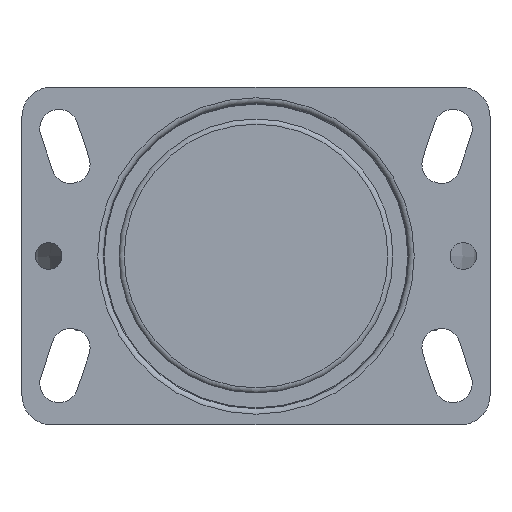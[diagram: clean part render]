
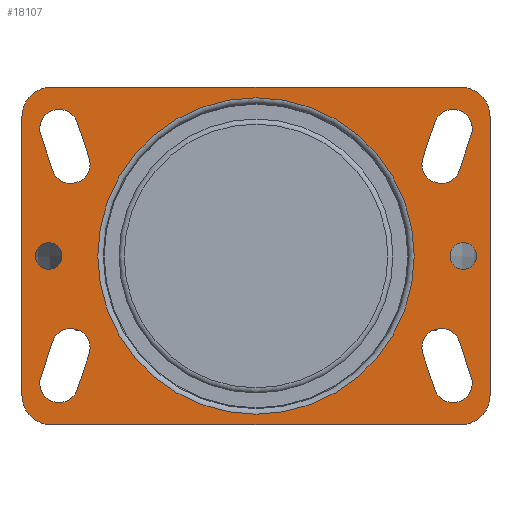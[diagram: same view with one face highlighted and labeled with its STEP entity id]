
A CAD part, top view. The second image highlights one B-rep face of the part: STEP entity #18107.
In plain terms, the highlighted planar face has unit normal (0, 0, 1).
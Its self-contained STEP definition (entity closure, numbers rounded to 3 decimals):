
#1108=FACE_BOUND('',#2696,.T.);
#1109=FACE_BOUND('',#2697,.T.);
#1110=FACE_BOUND('',#2698,.T.);
#1111=FACE_BOUND('',#2699,.T.);
#1112=FACE_BOUND('',#2700,.T.);
#1113=FACE_BOUND('',#2701,.T.);
#1114=FACE_BOUND('',#2702,.T.);
#1496=FACE_OUTER_BOUND('',#2695,.T.);
#2695=EDGE_LOOP('',(#13688,#13689,#13690,#13691,#13692,#13693,#13694,#13695));
#2696=EDGE_LOOP('',(#13696));
#2697=EDGE_LOOP('',(#13697));
#2698=EDGE_LOOP('',(#13698,#13699,#13700,#13701));
#2699=EDGE_LOOP('',(#13702,#13703,#13704,#13705));
#2700=EDGE_LOOP('',(#13706,#13707,#13708,#13709));
#2701=EDGE_LOOP('',(#13710,#13711,#13712,#13713));
#2702=EDGE_LOOP('',(#13714));
#4108=LINE('',#28805,#5033);
#4111=LINE('',#28811,#5036);
#4112=LINE('',#28815,#5037);
#4113=LINE('',#28819,#5038);
#4114=LINE('',#28827,#5039);
#4115=LINE('',#28831,#5040);
#4116=LINE('',#28835,#5041);
#4117=LINE('',#28839,#5042);
#4118=LINE('',#28843,#5043);
#4119=LINE('',#28847,#5044);
#4120=LINE('',#28851,#5045);
#4121=LINE('',#28855,#5046);
#5033=VECTOR('',#21462,10.);
#5036=VECTOR('',#21467,10.);
#5037=VECTOR('',#21470,10.);
#5038=VECTOR('',#21473,10.);
#5039=VECTOR('',#21480,10.);
#5040=VECTOR('',#21483,10.);
#5041=VECTOR('',#21486,10.);
#5042=VECTOR('',#21489,10.);
#5043=VECTOR('',#21492,10.);
#5044=VECTOR('',#21495,10.);
#5045=VECTOR('',#21498,10.);
#5046=VECTOR('',#21501,10.);
#5432=CIRCLE('',#19169,10.);
#5433=CIRCLE('',#19172,10.);
#5434=CIRCLE('',#19173,10.);
#5435=CIRCLE('',#19174,10.);
#5436=CIRCLE('',#19175,4.5);
#5437=CIRCLE('',#19176,4.5);
#5438=CIRCLE('',#19177,6.5);
#5439=CIRCLE('',#19178,6.5);
#5440=CIRCLE('',#19179,6.5);
#5441=CIRCLE('',#19180,6.5);
#5442=CIRCLE('',#19181,6.5);
#5443=CIRCLE('',#19182,6.5);
#5444=CIRCLE('',#19183,6.5);
#5445=CIRCLE('',#19184,6.5);
#5446=CIRCLE('',#19185,53.415);
#7783=VERTEX_POINT('',#28798);
#7784=VERTEX_POINT('',#28800);
#7785=VERTEX_POINT('',#28804);
#7787=VERTEX_POINT('',#28810);
#7788=VERTEX_POINT('',#28812);
#7789=VERTEX_POINT('',#28814);
#7790=VERTEX_POINT('',#28816);
#7791=VERTEX_POINT('',#28818);
#7792=VERTEX_POINT('',#28821);
#7793=VERTEX_POINT('',#28823);
#7794=VERTEX_POINT('',#28825);
#7795=VERTEX_POINT('',#28826);
#7796=VERTEX_POINT('',#28828);
#7797=VERTEX_POINT('',#28830);
#7798=VERTEX_POINT('',#28833);
#7799=VERTEX_POINT('',#28834);
#7800=VERTEX_POINT('',#28836);
#7801=VERTEX_POINT('',#28838);
#7802=VERTEX_POINT('',#28841);
#7803=VERTEX_POINT('',#28842);
#7804=VERTEX_POINT('',#28844);
#7805=VERTEX_POINT('',#28846);
#7806=VERTEX_POINT('',#28849);
#7807=VERTEX_POINT('',#28850);
#7808=VERTEX_POINT('',#28852);
#7809=VERTEX_POINT('',#28854);
#7810=VERTEX_POINT('',#28857);
#9853=EDGE_CURVE('',#7783,#7784,#5432,.T.);
#9855=EDGE_CURVE('',#7785,#7784,#4108,.T.);
#9858=EDGE_CURVE('',#7783,#7787,#4111,.T.);
#9859=EDGE_CURVE('',#7788,#7787,#5433,.T.);
#9860=EDGE_CURVE('',#7788,#7789,#4112,.T.);
#9861=EDGE_CURVE('',#7790,#7789,#5434,.T.);
#9862=EDGE_CURVE('',#7790,#7791,#4113,.T.);
#9863=EDGE_CURVE('',#7785,#7791,#5435,.T.);
#9864=EDGE_CURVE('',#7792,#7792,#5436,.T.);
#9865=EDGE_CURVE('',#7793,#7793,#5437,.T.);
#9866=EDGE_CURVE('',#7794,#7795,#4114,.T.);
#9867=EDGE_CURVE('',#7795,#7796,#5438,.T.);
#9868=EDGE_CURVE('',#7796,#7797,#4115,.T.);
#9869=EDGE_CURVE('',#7797,#7794,#5439,.T.);
#9870=EDGE_CURVE('',#7798,#7799,#4116,.T.);
#9871=EDGE_CURVE('',#7799,#7800,#5440,.T.);
#9872=EDGE_CURVE('',#7800,#7801,#4117,.T.);
#9873=EDGE_CURVE('',#7801,#7798,#5441,.T.);
#9874=EDGE_CURVE('',#7802,#7803,#4118,.T.);
#9875=EDGE_CURVE('',#7803,#7804,#5442,.T.);
#9876=EDGE_CURVE('',#7804,#7805,#4119,.T.);
#9877=EDGE_CURVE('',#7805,#7802,#5443,.T.);
#9878=EDGE_CURVE('',#7806,#7807,#4120,.T.);
#9879=EDGE_CURVE('',#7807,#7808,#5444,.T.);
#9880=EDGE_CURVE('',#7808,#7809,#4121,.T.);
#9881=EDGE_CURVE('',#7809,#7806,#5445,.T.);
#9882=EDGE_CURVE('',#7810,#7810,#5446,.T.);
#13688=ORIENTED_EDGE('',*,*,#9853,.F.);
#13689=ORIENTED_EDGE('',*,*,#9858,.T.);
#13690=ORIENTED_EDGE('',*,*,#9859,.F.);
#13691=ORIENTED_EDGE('',*,*,#9860,.T.);
#13692=ORIENTED_EDGE('',*,*,#9861,.F.);
#13693=ORIENTED_EDGE('',*,*,#9862,.T.);
#13694=ORIENTED_EDGE('',*,*,#9863,.F.);
#13695=ORIENTED_EDGE('',*,*,#9855,.T.);
#13696=ORIENTED_EDGE('',*,*,#9864,.T.);
#13697=ORIENTED_EDGE('',*,*,#9865,.T.);
#13698=ORIENTED_EDGE('',*,*,#9866,.T.);
#13699=ORIENTED_EDGE('',*,*,#9867,.T.);
#13700=ORIENTED_EDGE('',*,*,#9868,.T.);
#13701=ORIENTED_EDGE('',*,*,#9869,.T.);
#13702=ORIENTED_EDGE('',*,*,#9870,.T.);
#13703=ORIENTED_EDGE('',*,*,#9871,.T.);
#13704=ORIENTED_EDGE('',*,*,#9872,.T.);
#13705=ORIENTED_EDGE('',*,*,#9873,.T.);
#13706=ORIENTED_EDGE('',*,*,#9874,.T.);
#13707=ORIENTED_EDGE('',*,*,#9875,.T.);
#13708=ORIENTED_EDGE('',*,*,#9876,.T.);
#13709=ORIENTED_EDGE('',*,*,#9877,.T.);
#13710=ORIENTED_EDGE('',*,*,#9878,.T.);
#13711=ORIENTED_EDGE('',*,*,#9879,.T.);
#13712=ORIENTED_EDGE('',*,*,#9880,.T.);
#13713=ORIENTED_EDGE('',*,*,#9881,.T.);
#13714=ORIENTED_EDGE('',*,*,#9882,.F.);
#17610=PLANE('',#19171);
#18107=ADVANCED_FACE('',(#1496,#1108,#1109,#1110,#1111,#1112,#1113,#1114),
#17610,.T.);
#19169=AXIS2_PLACEMENT_3D('',#28801,#21457,#21458);
#19171=AXIS2_PLACEMENT_3D('',#28809,#21465,#21466);
#19172=AXIS2_PLACEMENT_3D('',#28813,#21468,#21469);
#19173=AXIS2_PLACEMENT_3D('',#28817,#21471,#21472);
#19174=AXIS2_PLACEMENT_3D('',#28820,#21474,#21475);
#19175=AXIS2_PLACEMENT_3D('',#28822,#21476,#21477);
#19176=AXIS2_PLACEMENT_3D('',#28824,#21478,#21479);
#19177=AXIS2_PLACEMENT_3D('',#28829,#21481,#21482);
#19178=AXIS2_PLACEMENT_3D('',#28832,#21484,#21485);
#19179=AXIS2_PLACEMENT_3D('',#28837,#21487,#21488);
#19180=AXIS2_PLACEMENT_3D('',#28840,#21490,#21491);
#19181=AXIS2_PLACEMENT_3D('',#28845,#21493,#21494);
#19182=AXIS2_PLACEMENT_3D('',#28848,#21496,#21497);
#19183=AXIS2_PLACEMENT_3D('',#28853,#21499,#21500);
#19184=AXIS2_PLACEMENT_3D('',#28856,#21502,#21503);
#19185=AXIS2_PLACEMENT_3D('',#28858,#21504,#21505);
#21457=DIRECTION('center_axis',(0.,0.,-1.));
#21458=DIRECTION('ref_axis',(-0.707,0.707,0.));
#21462=DIRECTION('',(-1.,0.,0.));
#21465=DIRECTION('center_axis',(0.,0.,1.));
#21466=DIRECTION('ref_axis',(1.,0.,0.));
#21467=DIRECTION('',(0.,-1.,0.));
#21468=DIRECTION('center_axis',(0.,0.,-1.));
#21469=DIRECTION('ref_axis',(-0.707,-0.707,0.));
#21470=DIRECTION('',(1.,0.,0.));
#21471=DIRECTION('center_axis',(0.,0.,-1.));
#21472=DIRECTION('ref_axis',(0.707,-0.707,0.));
#21473=DIRECTION('',(0.,1.,0.));
#21474=DIRECTION('center_axis',(0.,0.,-1.));
#21475=DIRECTION('ref_axis',(0.707,0.707,0.));
#21476=DIRECTION('center_axis',(0.,0.,-1.));
#21477=DIRECTION('ref_axis',(1.,0.,0.));
#21478=DIRECTION('center_axis',(0.,0.,-1.));
#21479=DIRECTION('ref_axis',(1.,0.,0.));
#21480=DIRECTION('',(-0.316,0.949,0.));
#21481=DIRECTION('center_axis',(0.,0.,-1.));
#21482=DIRECTION('ref_axis',(0.949,0.316,0.));
#21483=DIRECTION('',(0.316,-0.949,0.));
#21484=DIRECTION('center_axis',(0.,0.,-1.));
#21485=DIRECTION('ref_axis',(-0.949,-0.316,0.));
#21486=DIRECTION('',(0.316,0.949,0.));
#21487=DIRECTION('center_axis',(0.,0.,-1.));
#21488=DIRECTION('ref_axis',(0.949,-0.316,0.));
#21489=DIRECTION('',(-0.316,-0.949,0.));
#21490=DIRECTION('center_axis',(0.,0.,-1.));
#21491=DIRECTION('ref_axis',(-0.949,0.316,0.));
#21492=DIRECTION('',(0.316,0.949,0.));
#21493=DIRECTION('center_axis',(0.,0.,-1.));
#21494=DIRECTION('ref_axis',(0.949,-0.316,0.));
#21495=DIRECTION('',(-0.316,-0.949,0.));
#21496=DIRECTION('center_axis',(0.,0.,-1.));
#21497=DIRECTION('ref_axis',(-0.949,0.316,0.));
#21498=DIRECTION('',(0.316,-0.949,0.));
#21499=DIRECTION('center_axis',(0.,0.,-1.));
#21500=DIRECTION('ref_axis',(-0.949,-0.316,0.));
#21501=DIRECTION('',(-0.316,0.949,0.));
#21502=DIRECTION('center_axis',(0.,0.,-1.));
#21503=DIRECTION('ref_axis',(0.949,0.316,0.));
#21504=DIRECTION('center_axis',(0.,0.,1.));
#21505=DIRECTION('ref_axis',(1.,0.,0.));
#28798=CARTESIAN_POINT('',(-79.,47.,0.));
#28800=CARTESIAN_POINT('',(-69.,57.,0.));
#28801=CARTESIAN_POINT('Origin',(-69.,47.,0.));
#28804=CARTESIAN_POINT('',(69.,57.,0.));
#28805=CARTESIAN_POINT('',(79.,57.,0.));
#28809=CARTESIAN_POINT('Origin',(0.,0.,0.));
#28810=CARTESIAN_POINT('',(-79.,-47.,0.));
#28811=CARTESIAN_POINT('',(-79.,57.,0.));
#28812=CARTESIAN_POINT('',(-69.,-57.,0.));
#28813=CARTESIAN_POINT('Origin',(-69.,-47.,0.));
#28814=CARTESIAN_POINT('',(69.,-57.,0.));
#28815=CARTESIAN_POINT('',(-79.,-57.,0.));
#28816=CARTESIAN_POINT('',(79.,-47.,0.));
#28817=CARTESIAN_POINT('Origin',(69.,-47.,0.));
#28818=CARTESIAN_POINT('',(79.,47.,0.));
#28819=CARTESIAN_POINT('',(79.,-57.,0.));
#28820=CARTESIAN_POINT('Origin',(69.,47.,0.));
#28821=CARTESIAN_POINT('',(-74.5,0.,0.));
#28822=CARTESIAN_POINT('Origin',(-70.,0.,0.));
#28823=CARTESIAN_POINT('',(65.5,0.,0.));
#28824=CARTESIAN_POINT('Origin',(70.,0.,0.));
#28825=CARTESIAN_POINT('',(60.334,-45.055,0.));
#28826=CARTESIAN_POINT('',(56.334,-33.055,0.));
#28827=CARTESIAN_POINT('',(50.559,-15.73,0.));
#28828=CARTESIAN_POINT('',(68.666,-28.945,0.));
#28829=CARTESIAN_POINT('Origin',(62.5,-31.,0.));
#28830=CARTESIAN_POINT('',(72.666,-40.945,0.));
#28831=CARTESIAN_POINT('',(60.891,-5.62,0.));
#28832=CARTESIAN_POINT('Origin',(66.5,-43.,0.));
#28833=CARTESIAN_POINT('',(56.334,33.055,0.));
#28834=CARTESIAN_POINT('',(60.334,45.055,0.));
#28835=CARTESIAN_POINT('',(48.559,9.73,0.));
#28836=CARTESIAN_POINT('',(72.666,40.945,0.));
#28837=CARTESIAN_POINT('Origin',(66.5,43.,0.));
#28838=CARTESIAN_POINT('',(68.666,28.945,0.));
#28839=CARTESIAN_POINT('',(62.891,11.62,0.));
#28840=CARTESIAN_POINT('Origin',(62.5,31.,0.));
#28841=CARTESIAN_POINT('',(-72.666,-40.945,0.));
#28842=CARTESIAN_POINT('',(-68.666,-28.945,0.));
#28843=CARTESIAN_POINT('',(-62.891,-11.62,0.));
#28844=CARTESIAN_POINT('',(-56.334,-33.055,0.));
#28845=CARTESIAN_POINT('Origin',(-62.5,-31.,0.));
#28846=CARTESIAN_POINT('',(-60.334,-45.055,0.));
#28847=CARTESIAN_POINT('',(-48.559,-9.73,0.));
#28848=CARTESIAN_POINT('Origin',(-66.5,-43.,0.));
#28849=CARTESIAN_POINT('',(-60.334,45.055,0.));
#28850=CARTESIAN_POINT('',(-56.334,33.055,0.));
#28851=CARTESIAN_POINT('',(-50.559,15.73,0.));
#28852=CARTESIAN_POINT('',(-68.666,28.945,0.));
#28853=CARTESIAN_POINT('Origin',(-62.5,31.,0.));
#28854=CARTESIAN_POINT('',(-72.666,40.945,0.));
#28855=CARTESIAN_POINT('',(-60.891,5.62,0.));
#28856=CARTESIAN_POINT('Origin',(-66.5,43.,0.));
#28857=CARTESIAN_POINT('',(53.415,0.,0.));
#28858=CARTESIAN_POINT('Origin',(0.,0.,0.));
